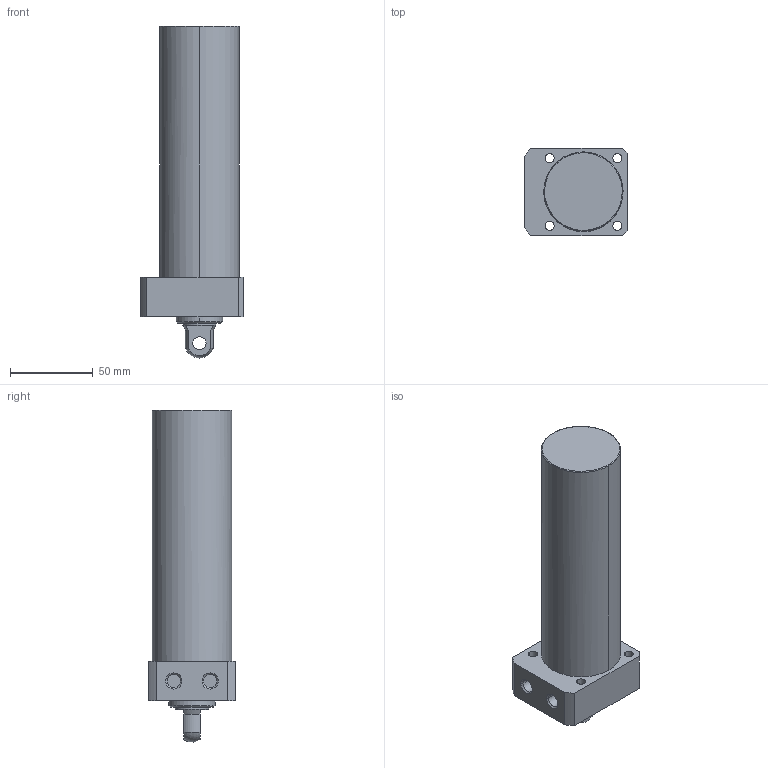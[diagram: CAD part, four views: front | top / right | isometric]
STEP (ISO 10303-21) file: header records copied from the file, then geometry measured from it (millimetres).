
FILE_DESCRIPTION((' '),'2;1');
FILE_NAME( 'TLLR-048CP-125.STEP.stp', '2025-10-24T16:34:40', (' '), ('--- Datakit www.datakit.com---'), ' Datakit CrossCadWare V2024.1 Dec 21 2023', 'Mastercam 2025', ' ');
FILE_SCHEMA(('AUTOMOTIVE_DESIGN { 1 0 10303 214 1 1 1 1 }'));
Length unit declared in the file: millimetre
Products named in the file (1): TLLR-048CP-125
Bounding box: 62 x 53 x 200.94 mm (x, y, z)
Volume: 354540.3 mm3; surface area: 38327.5 mm2
Topology: 1 solids, 1 shells, 57 faces, 164 edges, 116 vertices
Faces by surface type: cylinder 28, plane 18, cone 8, torus 2, sphere 1
Entity records: 2006 total; most frequent: DIRECTION 378, CARTESIAN_POINT 350, ORIENTED_EDGE 328, EDGE_CURVE 164, AXIS2_PLACEMENT_3D 160, VERTEX_POINT 116, CIRCLE 102, EDGE_LOOP 74
